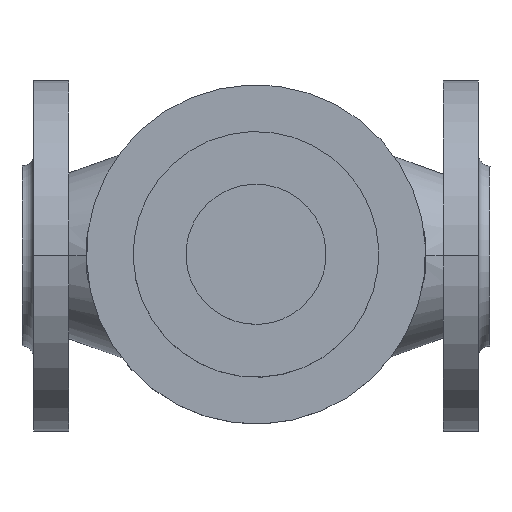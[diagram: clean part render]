
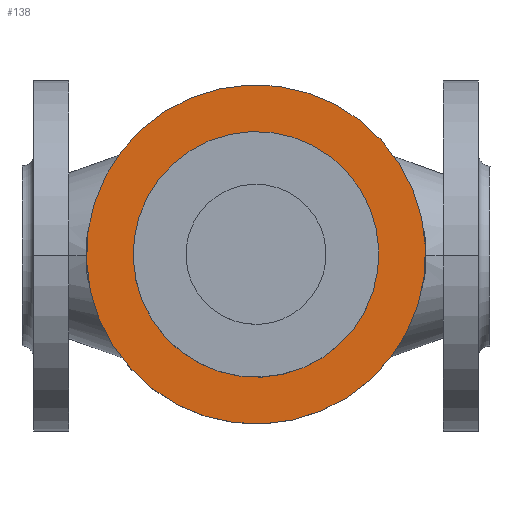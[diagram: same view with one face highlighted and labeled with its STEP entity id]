
A CAD part, top view. The second image highlights one B-rep face of the part: STEP entity #138.
In plain terms, the highlighted planar face has unit normal (0, 0, 1).
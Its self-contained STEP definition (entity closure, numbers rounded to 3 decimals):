
#138 = ADVANCED_FACE ( 'NONE', ( #13634, #5255 ), #11987, .T. ) ;
#697 = CARTESIAN_POINT ( 'NONE',  ( -32.005, -48.496, 304.1 ) ) ;
#1429 = CARTESIAN_POINT ( 'NONE',  ( -72.838, 49.974, 304.1 ) ) ;
#2638 = AXIS2_PLACEMENT_3D ( 'NONE', #15859, #9136, #17376 ) ;
#2849 = CARTESIAN_POINT ( 'NONE',  ( -52.115, 0., 304.1 ) ) ;
#3551 = VERTEX_POINT ( 'NONE', #16117 ) ;
#4217 = ORIENTED_EDGE ( 'NONE', *, *, #13527, .F. ) ;
#4774 = AXIS2_PLACEMENT_3D ( 'NONE', #1429, #19882, #11550 ) ;
#5255 = FACE_BOUND ( 'NONE', #19703, .T. ) ;
#6474 = DIRECTION ( 'NONE',  ( -0.383, 0.924, 0. ) ) ;
#6499 = CARTESIAN_POINT ( 'NONE',  ( -72.225, 48.496, 304.1 ) ) ;
#6538 = AXIS2_PLACEMENT_3D ( 'NONE', #2849, #11565, #17925 ) ;
#8991 = AXIS2_PLACEMENT_3D ( 'NONE', #14858, #16280, #6474 ) ;
#9136 = DIRECTION ( 'NONE',  ( 0., 0., 1. ) ) ;
#9552 = DIRECTION ( 'NONE',  ( 0., 0., 1. ) ) ;
#9763 = EDGE_CURVE ( 'NONE', #19918, #13197, #21089, .T. ) ;
#11550 = DIRECTION ( 'NONE',  ( 1., 0., 0. ) ) ;
#11565 = DIRECTION ( 'NONE',  ( 0., 0., 1. ) ) ;
#11987 = PLANE ( 'NONE',  #4774 ) ;
#13197 = VERTEX_POINT ( 'NONE', #697 ) ;
#13210 = EDGE_CURVE ( 'NONE', #3551, #16617, #17746, .T. ) ;
#13406 = EDGE_CURVE ( 'NONE', #16617, #3551, #16017, .T. ) ;
#13527 = EDGE_CURVE ( 'NONE', #13197, #19918, #14278, .T. ) ;
#13634 = FACE_OUTER_BOUND ( 'NONE', #14009, .T. ) ;
#14009 = EDGE_LOOP ( 'NONE', ( #17087, #14991 ) ) ;
#14278 = CIRCLE ( 'NONE', #6538, 52.5 ) ;
#14628 = DIRECTION ( 'NONE',  ( 1., 0., 0. ) ) ;
#14858 = CARTESIAN_POINT ( 'NONE',  ( -52.115, 0., 304.1 ) ) ;
#14991 = ORIENTED_EDGE ( 'NONE', *, *, #13210, .T. ) ;
#15859 = CARTESIAN_POINT ( 'NONE',  ( -52.115, 0., 304.1 ) ) ;
#16017 = CIRCLE ( 'NONE', #8991, 72.5 ) ;
#16117 = CARTESIAN_POINT ( 'NONE',  ( -24.344, -66.97, 304.1 ) ) ;
#16280 = DIRECTION ( 'NONE',  ( 0., 0., 1. ) ) ;
#16617 = VERTEX_POINT ( 'NONE', #21612 ) ;
#16909 = CARTESIAN_POINT ( 'NONE',  ( -52.115, 0., 304.1 ) ) ;
#17087 = ORIENTED_EDGE ( 'NONE', *, *, #13406, .T. ) ;
#17376 = DIRECTION ( 'NONE',  ( -0.383, 0.924, 0. ) ) ;
#17746 = CIRCLE ( 'NONE', #2638, 72.5 ) ;
#17925 = DIRECTION ( 'NONE',  ( 1., 0., 0. ) ) ;
#18902 = ORIENTED_EDGE ( 'NONE', *, *, #9763, .F. ) ;
#19703 = EDGE_LOOP ( 'NONE', ( #18902, #4217 ) ) ;
#19882 = DIRECTION ( 'NONE',  ( 0., 0., 1. ) ) ;
#19918 = VERTEX_POINT ( 'NONE', #6499 ) ;
#20028 = AXIS2_PLACEMENT_3D ( 'NONE', #16909, #9552, #14628 ) ;
#21089 = CIRCLE ( 'NONE', #20028, 52.5 ) ;
#21612 = CARTESIAN_POINT ( 'NONE',  ( -79.886, 66.97, 304.1 ) ) ;
